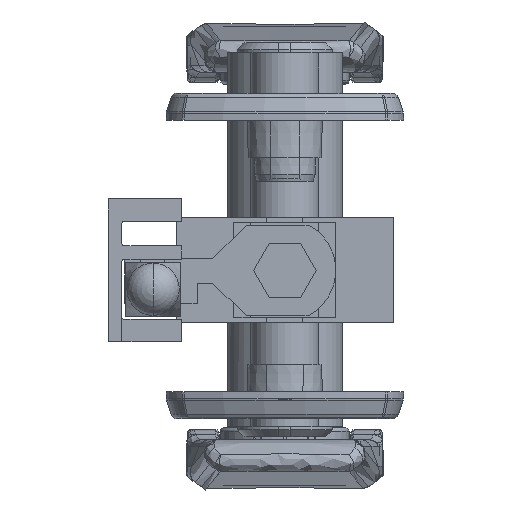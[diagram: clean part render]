
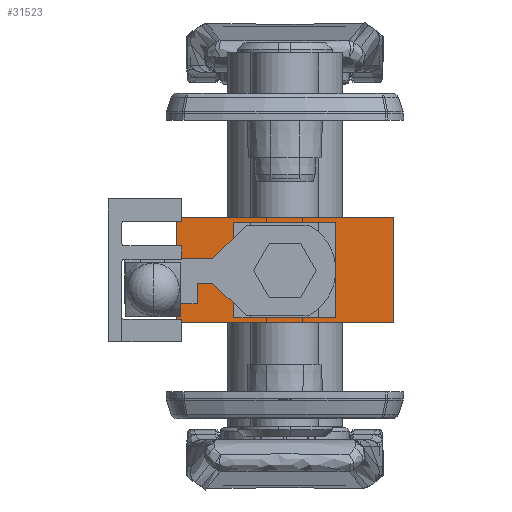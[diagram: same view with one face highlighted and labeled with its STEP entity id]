
A CAD part, front view. The second image highlights one B-rep face of the part: STEP entity #31523.
In plain terms, the highlighted planar face has unit normal (0, -1, 0).
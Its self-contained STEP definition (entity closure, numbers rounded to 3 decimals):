
#398 = VERTEX_POINT ( 'NONE', #31801 ) ;
#1220 = ORIENTED_EDGE ( 'NONE', *, *, #18253, .F. ) ;
#3269 = DIRECTION ( 'NONE',  ( 1., 0., 0. ) ) ;
#3490 = ORIENTED_EDGE ( 'NONE', *, *, #6932, .F. ) ;
#5494 = LINE ( 'NONE', #24521, #31602 ) ;
#6570 = EDGE_LOOP ( 'NONE', ( #42385, #6605, #3490, #18138 ) ) ;
#6605 = ORIENTED_EDGE ( 'NONE', *, *, #18247, .F. ) ;
#6878 = CARTESIAN_POINT ( 'NONE',  ( 16., -199.25, -7.75 ) ) ;
#6932 = EDGE_CURVE ( 'NONE', #50697, #398, #56803, .T. ) ;
#7619 = ORIENTED_EDGE ( 'NONE', *, *, #15252, .F. ) ;
#7808 = CARTESIAN_POINT ( 'NONE',  ( -16., -199.25, 7.75 ) ) ;
#8174 = CARTESIAN_POINT ( 'NONE',  ( -7., -199.25, -6.25 ) ) ;
#8573 = VECTOR ( 'NONE', #55445, 1000. ) ;
#10150 = LINE ( 'NONE', #53677, #29850 ) ;
#13022 = LINE ( 'NONE', #27344, #46307 ) ;
#13495 = DIRECTION ( 'NONE',  ( 1., 0., 0. ) ) ;
#13517 = EDGE_CURVE ( 'NONE', #34746, #55332, #10150, .T. ) ;
#15252 = EDGE_CURVE ( 'NONE', #55332, #32539, #13022, .T. ) ;
#16157 = CARTESIAN_POINT ( 'NONE',  ( -16., -199.25, 7.75 ) ) ;
#17474 = PLANE ( 'NONE',  #28755 ) ;
#18138 = ORIENTED_EDGE ( 'NONE', *, *, #22579, .T. ) ;
#18247 = EDGE_CURVE ( 'NONE', #398, #24733, #5494, .T. ) ;
#18253 = EDGE_CURVE ( 'NONE', #32539, #55016, #49638, .T. ) ;
#21839 = DIRECTION ( 'NONE',  ( 0., 0., 1. ) ) ;
#21980 = VECTOR ( 'NONE', #44889, 1000. ) ;
#22579 = EDGE_CURVE ( 'NONE', #50697, #36706, #25169, .T. ) ;
#24521 = CARTESIAN_POINT ( 'NONE',  ( 16., -199.25, 7.75 ) ) ;
#24541 = CARTESIAN_POINT ( 'NONE',  ( 7., -199.25, 6.25 ) ) ;
#24733 = VERTEX_POINT ( 'NONE', #6878 ) ;
#25169 = LINE ( 'NONE', #38890, #45900 ) ;
#25509 = CARTESIAN_POINT ( 'NONE',  ( 7., -199.25, -6.25 ) ) ;
#26232 = LINE ( 'NONE', #45199, #21980 ) ;
#27344 = CARTESIAN_POINT ( 'NONE',  ( -7., -199.25, -6.25 ) ) ;
#28036 = CARTESIAN_POINT ( 'NONE',  ( 7., -199.25, 6.25 ) ) ;
#28755 = AXIS2_PLACEMENT_3D ( 'NONE', #7808, #51389, #21839 ) ;
#29143 = DIRECTION ( 'NONE',  ( -1., 0., 0. ) ) ;
#29244 = ORIENTED_EDGE ( 'NONE', *, *, #47005, .F. ) ;
#29850 = VECTOR ( 'NONE', #29143, 1000. ) ;
#31460 = LINE ( 'NONE', #28036, #8573 ) ;
#31523 = ADVANCED_FACE ( 'NONE', ( #50449, #60156 ), #17474, .F. ) ;
#31602 = VECTOR ( 'NONE', #40334, 1000. ) ;
#31801 = CARTESIAN_POINT ( 'NONE',  ( 16., -199.25, 7.75 ) ) ;
#32539 = VERTEX_POINT ( 'NONE', #8174 ) ;
#33779 = CARTESIAN_POINT ( 'NONE',  ( -16., -199.25, -7.75 ) ) ;
#34746 = VERTEX_POINT ( 'NONE', #24541 ) ;
#34786 = CARTESIAN_POINT ( 'NONE',  ( -7., -199.25, 6.25 ) ) ;
#36706 = VERTEX_POINT ( 'NONE', #33779 ) ;
#38890 = CARTESIAN_POINT ( 'NONE',  ( -16., -199.25, 7.75 ) ) ;
#40334 = DIRECTION ( 'NONE',  ( 0., 0., -1. ) ) ;
#40950 = CARTESIAN_POINT ( 'NONE',  ( -7., -199.25, -6.25 ) ) ;
#41499 = VECTOR ( 'NONE', #3269, 1000. ) ;
#42385 = ORIENTED_EDGE ( 'NONE', *, *, #51342, .T. ) ;
#43032 = CARTESIAN_POINT ( 'NONE',  ( -16., -199.25, 7.75 ) ) ;
#44889 = DIRECTION ( 'NONE',  ( 1., 0., 0. ) ) ;
#45199 = CARTESIAN_POINT ( 'NONE',  ( -16., -199.25, -7.75 ) ) ;
#45900 = VECTOR ( 'NONE', #53814, 1000. ) ;
#46307 = VECTOR ( 'NONE', #46317, 1000. ) ;
#46317 = DIRECTION ( 'NONE',  ( 0., 0., -1. ) ) ;
#47005 = EDGE_CURVE ( 'NONE', #55016, #34746, #31460, .T. ) ;
#49471 = ORIENTED_EDGE ( 'NONE', *, *, #13517, .F. ) ;
#49638 = LINE ( 'NONE', #40950, #41499 ) ;
#50449 = FACE_BOUND ( 'NONE', #57085, .T. ) ;
#50697 = VERTEX_POINT ( 'NONE', #16157 ) ;
#51342 = EDGE_CURVE ( 'NONE', #36706, #24733, #26232, .T. ) ;
#51389 = DIRECTION ( 'NONE',  ( 0., 1., 0. ) ) ;
#53190 = VECTOR ( 'NONE', #13495, 1000. ) ;
#53677 = CARTESIAN_POINT ( 'NONE',  ( 7., -199.25, 6.25 ) ) ;
#53814 = DIRECTION ( 'NONE',  ( 0., 0., -1. ) ) ;
#55016 = VERTEX_POINT ( 'NONE', #25509 ) ;
#55332 = VERTEX_POINT ( 'NONE', #34786 ) ;
#55445 = DIRECTION ( 'NONE',  ( 0., 0., 1. ) ) ;
#56803 = LINE ( 'NONE', #43032, #53190 ) ;
#57085 = EDGE_LOOP ( 'NONE', ( #7619, #49471, #29244, #1220 ) ) ;
#60156 = FACE_OUTER_BOUND ( 'NONE', #6570, .T. ) ;
